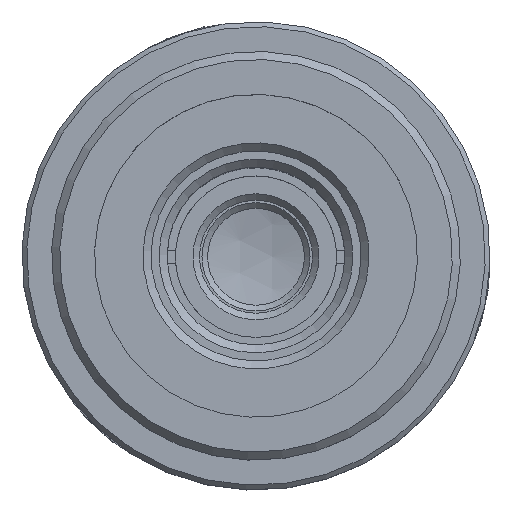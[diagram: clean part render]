
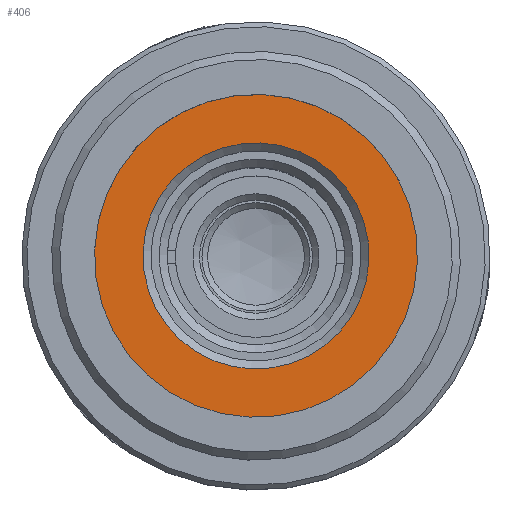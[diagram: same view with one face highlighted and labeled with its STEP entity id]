
A CAD part, top view. The second image highlights one B-rep face of the part: STEP entity #406.
In plain terms, the highlighted planar face has unit normal (0, 0, 1).
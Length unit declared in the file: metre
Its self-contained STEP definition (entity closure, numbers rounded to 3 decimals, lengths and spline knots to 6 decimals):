
#406=ADVANCED_FACE('0:31035',(#950,#951),#952,.F.);
#950=FACE_BOUND('',#1715,.T.);
#951=FACE_OUTER_BOUND('',#1716,.T.);
#952=PLANE('',#1717);
#1715=EDGE_LOOP('',(#2933));
#1716=EDGE_LOOP('',(#2934));
#1717=AXIS2_PLACEMENT_3D('',#2935,#2936,#2937);
#2933=ORIENTED_EDGE('',*,*,#3916,.T.);
#2934=ORIENTED_EDGE('',*,*,#3917,.F.);
#2935=CARTESIAN_POINT('',(0.001241,0.00652,0.0559));
#2936=DIRECTION('',(0.,0.0,-1.0));
#2937=DIRECTION('',(-1.0,0.0,0.));
#3916=EDGE_CURVE('0:31959',#4530,#4530,#4531,.T.);
#3917=EDGE_CURVE('0:31926',#4532,#4532,#4533,.T.);
#4530=VERTEX_POINT('',#5566);
#4531=CIRCLE('',#5567,0.007);
#4532=VERTEX_POINT('',#5568);
#4533=CIRCLE('',#5569,0.01);
#5566=CARTESIAN_POINT('',(-0.010671,0.003857,0.0559));
#5567=AXIS2_PLACEMENT_3D('',#6657,#6658,#6659);
#5568=CARTESIAN_POINT('',(-0.012886,0.00588,0.0559));
#5569=AXIS2_PLACEMENT_3D('',#6660,#6661,#6662);
#6657=CARTESIAN_POINT('',(-0.005502,-0.000864,0.0559));
#6658=DIRECTION('',(0.,0.,-1.0));
#6659=DIRECTION('',(-0.738,0.674,0.));
#6660=CARTESIAN_POINT('',(-0.005502,-0.000864,0.0559));
#6661=DIRECTION('',(0.,0.,-1.0));
#6662=DIRECTION('',(-0.738,0.674,0.));
